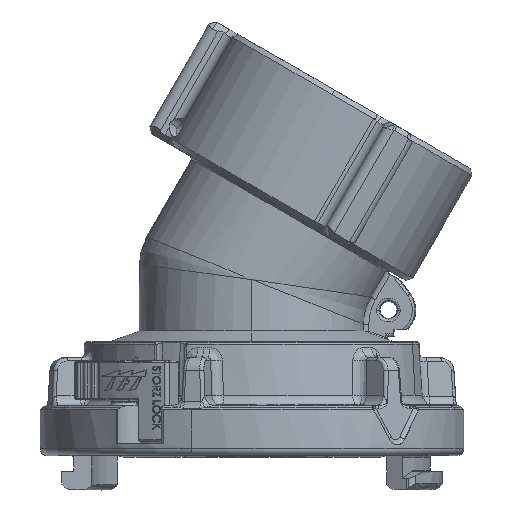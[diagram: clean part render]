
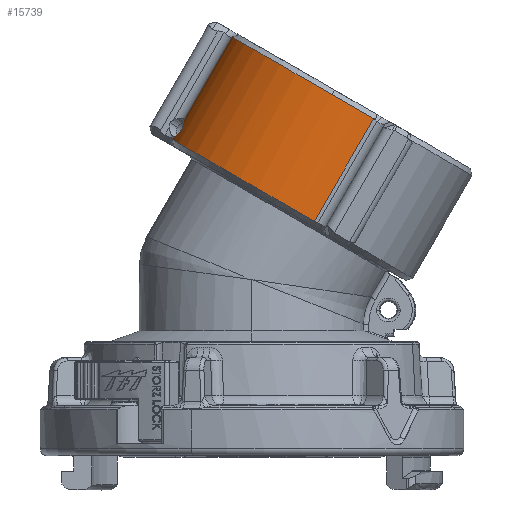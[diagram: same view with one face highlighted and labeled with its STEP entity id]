
A CAD part, top view. The second image highlights one B-rep face of the part: STEP entity #15739.
In plain terms, the highlighted cylindrical face has radius 64.135 mm (diameter 128.27 mm), a partial arc.
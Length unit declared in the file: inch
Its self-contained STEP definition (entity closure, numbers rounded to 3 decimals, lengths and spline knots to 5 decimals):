
#1065 = DIRECTION ( 'NONE',  ( 0.5, 0.866, 0. ) ) ;
#1078 = CARTESIAN_POINT ( 'NONE',  ( 0.695, 2.40474, 0. ) ) ;
#1085 = DIRECTION ( 'NONE',  ( 0.15, -0.086, -0.985 ) ) ;
#5165 = CARTESIAN_POINT ( 'NONE',  ( 1.82243, 4.35751, 0. ) ) ;
#5166 = DIRECTION ( 'NONE',  ( -0.5, -0.866, 0. ) ) ;
#5167 = DIRECTION ( 'NONE',  ( -0.15, 0.086, 0.985 ) ) ;
#5195 = CARTESIAN_POINT ( 'NONE',  ( -1.41543, 3.79931, -0.01189 ) ) ;
#5196 = CARTESIAN_POINT ( 'NONE',  ( -1.41546, 3.7997, 0.03554 ) ) ;
#5197 = CARTESIAN_POINT ( 'NONE',  ( 0.74257, 2.48712, 0. ) ) ;
#5198 = DIRECTION ( 'NONE',  ( -0.5, -0.866, 0. ) ) ;
#5199 = DIRECTION ( 'NONE',  ( 0.15, -0.086, -0.985 ) ) ;
#5201 = CARTESIAN_POINT ( 'NONE',  ( -1.41226, 3.80302, 0.08234 ) ) ;
#5202 = CARTESIAN_POINT ( 'NONE',  ( -1.40379, 3.81059, 0.15191 ) ) ;
#5203 = CARTESIAN_POINT ( 'NONE',  ( -1.40035, 3.81356, 0.17499 ) ) ;
#5204 = CARTESIAN_POINT ( 'NONE',  ( -1.39225, 3.82036, 0.22093 ) ) ;
#5205 = CARTESIAN_POINT ( 'NONE',  ( -1.38758, 3.8242, 0.24386 ) ) ;
#5206 = CARTESIAN_POINT ( 'NONE',  ( -1.37705, 3.83286, 0.28898 ) ) ;
#5207 = CARTESIAN_POINT ( 'NONE',  ( -1.3712, 3.83767, 0.31121 ) ) ;
#5208 = CARTESIAN_POINT ( 'NONE',  ( -1.35811, 3.84874, 0.35479 ) ) ;
#5209 = CARTESIAN_POINT ( 'NONE',  ( -1.35089, 3.85498, 0.37616 ) ) ;
#5210 = CARTESIAN_POINT ( 'NONE',  ( -1.33878, 3.86603, 0.40731 ) ) ;
#5211 = CARTESIAN_POINT ( 'NONE',  ( -1.33453, 3.87, 0.41754 ) ) ;
#5212 = CARTESIAN_POINT ( 'NONE',  ( -1.32547, 3.87882, 0.43756 ) ) ;
#5213 = CARTESIAN_POINT ( 'NONE',  ( -1.32062, 3.8837, 0.44745 ) ) ;
#5214 = CARTESIAN_POINT ( 'NONE',  ( -1.31026, 3.89482, 0.46598 ) ) ;
#5215 = CARTESIAN_POINT ( 'NONE',  ( -1.30477, 3.901, 0.47471 ) ) ;
#5216 = CARTESIAN_POINT ( 'NONE',  ( -1.29276, 3.91622, 0.48909 ) ) ;
#5217 = CARTESIAN_POINT ( 'NONE',  ( -1.28624, 3.92533, 0.49452 ) ) ;
#5218 = CARTESIAN_POINT ( 'NONE',  ( -1.277, 3.94107, 0.49516 ) ) ;
#5219 = CARTESIAN_POINT ( 'NONE',  ( -1.27421, 3.94633, 0.49412 ) ) ;
#5220 = CARTESIAN_POINT ( 'NONE',  ( -1.26922, 3.95659, 0.49005 ) ) ;
#5221 = CARTESIAN_POINT ( 'NONE',  ( -1.26711, 3.96139, 0.48715 ) ) ;
#5222 = CARTESIAN_POINT ( 'NONE',  ( -1.26335, 3.97058, 0.48029 ) ) ;
#5223 = CARTESIAN_POINT ( 'NONE',  ( -1.26174, 3.97489, 0.47639 ) ) ;
#5224 = CARTESIAN_POINT ( 'NONE',  ( -1.25886, 3.98301, 0.46811 ) ) ;
#5225 = CARTESIAN_POINT ( 'NONE',  ( -1.2576, 3.98686, 0.46371 ) ) ;
#5226 = CARTESIAN_POINT ( 'NONE',  ( -1.25414, 3.99793, 0.44996 ) ) ;
#5227 = CARTESIAN_POINT ( 'NONE',  ( -1.25229, 4.00465, 0.44017 ) ) ;
#5228 = CARTESIAN_POINT ( 'NONE',  ( -1.24909, 4.0171, 0.4202 ) ) ;
#5229 = CARTESIAN_POINT ( 'NONE',  ( -1.24773, 4.02287, 0.40994 ) ) ;
#5230 = CARTESIAN_POINT ( 'NONE',  ( -1.24411, 4.03919, 0.37859 ) ) ;
#5231 = CARTESIAN_POINT ( 'NONE',  ( -1.24227, 4.04878, 0.35692 ) ) ;
#5232 = CARTESIAN_POINT ( 'NONE',  ( -1.23913, 4.06608, 0.31258 ) ) ;
#5233 = CARTESIAN_POINT ( 'NONE',  ( -1.23788, 4.07365, 0.29015 ) ) ;
#5234 = CARTESIAN_POINT ( 'NONE',  ( -1.2345, 4.09394, 0.22233 ) ) ;
#5235 = CARTESIAN_POINT ( 'NONE',  ( -1.23272, 4.10435, 0.17641 ) ) ;
#5236 = CARTESIAN_POINT ( 'NONE',  ( -1.23039, 4.11559, 0.10656 ) ) ;
#5237 = CARTESIAN_POINT ( 'NONE',  ( -1.22968, 4.11859, 0.0831 ) ) ;
#5238 = CARTESIAN_POINT ( 'NONE',  ( -1.22854, 4.12278, 0.03579 ) ) ;
#5239 = CARTESIAN_POINT ( 'NONE',  ( -1.22813, 4.12395, 0.01194 ) ) ;
#5240 = CARTESIAN_POINT ( 'NONE',  ( -1.22795, 4.12404, -0.01189 ) ) ;
#5241 = CARTESIAN_POINT ( 'NONE',  ( -1.49169, 3.66722, -0.01189 ) ) ;
#5242 = DIRECTION ( 'NONE',  ( 0.5, 0.866, 0. ) ) ;
#5411 = CARTESIAN_POINT ( 'NONE',  ( -1.22795, 4.12404, -0.01189 ) ) ;
#5413 = CARTESIAN_POINT ( 'NONE',  ( -0.36426, 5.62, -0.01189 ) ) ;
#15739 = ADVANCED_FACE ( 'NONE', ( #17188 ), #17189, .T. ) ;
#17188 = FACE_OUTER_BOUND ( 'NONE', #25882, .T. ) ;
#17189 = CYLINDRICAL_SURFACE ( 'NONE', #42500, 2.525 ) ;
#17653 = VERTEX_POINT ( 'NONE', #5411 ) ;
#17655 = VERTEX_POINT ( 'NONE', #5413 ) ;
#21997 = CARTESIAN_POINT ( 'NONE',  ( -1.49169, 3.66722, -0.01189 ) ) ;
#22001 = DIRECTION ( 'NONE',  ( 0.5, 0.866, 0. ) ) ;
#22076 = CARTESIAN_POINT ( 'NONE',  ( 1.82243, 4.35751, 0. ) ) ;
#22077 = DIRECTION ( 'NONE',  ( -0.5, -0.866, 0. ) ) ;
#22078 = DIRECTION ( 'NONE',  ( -0.15, 0.086, 0.985 ) ) ;
#22092 = CARTESIAN_POINT ( 'NONE',  ( 1.08788, 2.17791, 2.48391 ) ) ;
#22096 = DIRECTION ( 'NONE',  ( 0.5, 0.866, 0. ) ) ;
#22673 = CARTESIAN_POINT ( 'NONE',  ( 1.13544, 2.2603, 2.48391 ) ) ;
#22677 = CARTESIAN_POINT ( 'NONE',  ( 2.21531, 4.13068, 2.48391 ) ) ;
#22686 = CARTESIAN_POINT ( 'NONE',  ( 1.44423, 4.57587, 2.48695 ) ) ;
#22691 = CARTESIAN_POINT ( 'NONE',  ( -1.41543, 3.79931, -0.01189 ) ) ;
#22742 = CARTESIAN_POINT ( 'NONE',  ( -1.44412, 3.74961, -0.01189 ) ) ;
#24868 = AXIS2_PLACEMENT_3D ( 'NONE', #5165, #5166, #5167 ) ;
#24877 = AXIS2_PLACEMENT_3D ( 'NONE', #5197, #5198, #5199 ) ;
#25307 = CIRCLE ( 'NONE', #24868, 2.525 ) ;
#25312 = CIRCLE ( 'NONE', #24877, 2.525 ) ;
#25315 = LINE ( 'NONE', #5241, #25316 ) ;
#25316 = VECTOR ( 'NONE', #5242, 39.37008 ) ;
#25882 = EDGE_LOOP ( 'NONE', ( #31430, #31431, #31432, #31433, #31434, #31435, #31436 ) ) ;
#28139 = EDGE_CURVE ( 'NONE', #29015, #28915, #34458, .T. ) ;
#28173 = EDGE_CURVE ( 'NONE', #28889, #28905, #34470, .T. ) ;
#28184 = EDGE_CURVE ( 'NONE', #28881, #28889, #34476, .T. ) ;
#28881 = VERTEX_POINT ( 'NONE', #22673 ) ;
#28889 = VERTEX_POINT ( 'NONE', #22677 ) ;
#28905 = VERTEX_POINT ( 'NONE', #22686 ) ;
#28915 = VERTEX_POINT ( 'NONE', #22691 ) ;
#29015 = VERTEX_POINT ( 'NONE', #22742 ) ;
#31430 = ORIENTED_EDGE ( 'NONE', *, *, #41351, .F. ) ;
#31431 = ORIENTED_EDGE ( 'NONE', *, *, #28139, .F. ) ;
#31432 = ORIENTED_EDGE ( 'NONE', *, *, #41350, .F. ) ;
#31433 = ORIENTED_EDGE ( 'NONE', *, *, #28184, .T. ) ;
#31434 = ORIENTED_EDGE ( 'NONE', *, *, #28173, .T. ) ;
#31435 = ORIENTED_EDGE ( 'NONE', *, *, #41342, .T. ) ;
#31436 = ORIENTED_EDGE ( 'NONE', *, *, #41352, .F. ) ;
#32084 = AXIS2_PLACEMENT_3D ( 'NONE', #22076, #22077, #22078 ) ;
#34458 = LINE ( 'NONE', #21997, #34459 ) ;
#34459 = VECTOR ( 'NONE', #22001, 39.37008 ) ;
#34470 = CIRCLE ( 'NONE', #32084, 2.525 ) ;
#34476 = LINE ( 'NONE', #22092, #34479 ) ;
#34479 = VECTOR ( 'NONE', #22096, 39.37008 ) ;
#41342 = EDGE_CURVE ( 'NONE', #28905, #17655, #25307, .T. ) ;
#41350 = EDGE_CURVE ( 'NONE', #28881, #29015, #25312, .T. ) ;
#41351 = EDGE_CURVE ( 'NONE', #28915, #17653, #55396, .T. ) ;
#41352 = EDGE_CURVE ( 'NONE', #17653, #17655, #25315, .T. ) ;
#42500 = AXIS2_PLACEMENT_3D ( 'NONE', #1078, #1065, #1085 ) ;
#55396 = B_SPLINE_CURVE_WITH_KNOTS ( 'NONE', 3,
 ( #5195, #5196, #5201, #5202, #5203, #5204, #5205, #5206, #5207, #5208, #5209, #5210, #5211, #5212, #5213, #5214, #5215, #5216, #5217, #5218, #5219, #5220, #5221, #5222, #5223, #5224, #5225, #5226, #5227, #5228, #5229, #5230, #5231, #5232, #5233, #5234, #5235, #5236, #5237, #5238, #5239, #5240 ),
 .UNSPECIFIED., .F., .F.,
 ( 4, 2, 2, 2, 2, 2, 2, 2, 2, 2, 2, 2, 2, 2, 2, 2, 2, 2, 2, 2, 4 ),
 ( 0., 0.00358, 0.00537, 0.00716, 0.00895, 0.01074, 0.01164, 0.01253, 0.01343, 0.01432, 0.01477, 0.01522, 0.01566, 0.01611, 0.01701, 0.0179, 0.01969, 0.02148, 0.02506, 0.02685, 0.02864 ),
 .UNSPECIFIED. ) ;
